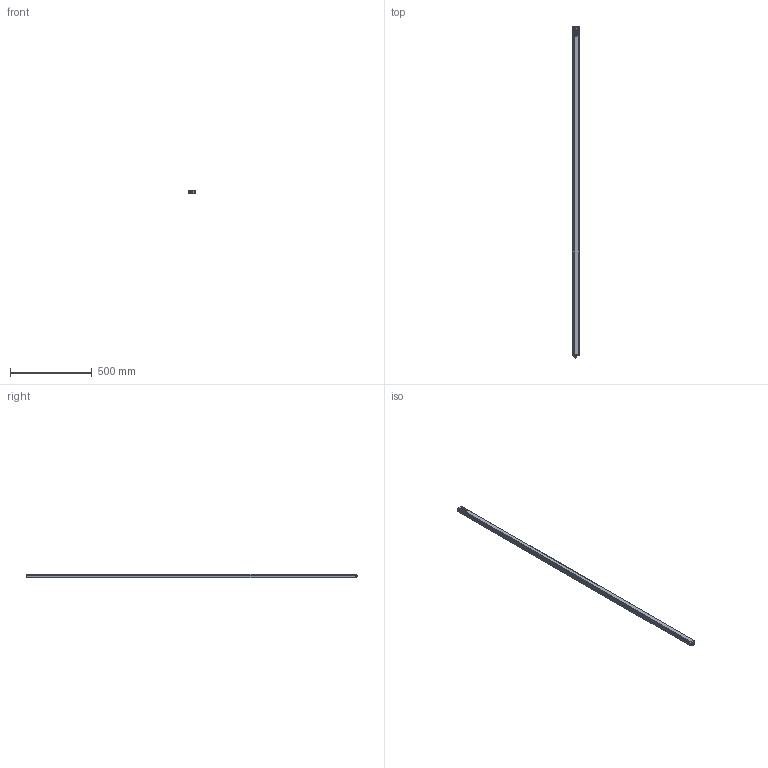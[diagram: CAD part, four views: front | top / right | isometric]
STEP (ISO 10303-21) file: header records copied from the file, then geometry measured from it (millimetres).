
FILE_DESCRIPTION(/* description */ (''),/* implementation_level */ '2;1');
FILE_NAME(/* name */ 'C:\Users\andre\SynologyDrive\Optoscan\Libreria Componenti\00 - Barriere\Barriera sorgente\Argo_2000_TX.stp',/* time_stamp */ '2021-04-22T10:29:16+02:00',/* author */ ('andre'),/* organization */ (''),/* preprocessor_version */ 'ST-DEVELOPER v18',/* originating_system */ 'Autodesk Inventor 2020',/* authorisation */ '');
FILE_SCHEMA (('AUTOMOTIVE_DESIGN { 1 0 10303 214 3 1 1 }'));
Length unit declared in the file: millimetre
Products named in the file (1): Argo_2000_TX
Bounding box: 40.5 x 2033.3 x 20.75 mm (x, y, z)
Volume: 400711.6 mm3; surface area: 527715.5 mm2
Topology: 1 solids, 1 shells, 696 faces, 1911 edges, 1225 vertices
Faces by surface type: plane 321, cylinder 195, bspline 94, torus 72, cone 8, sphere 6
Full cylindrical faces by diameter (mm): 1 x4, 2.459 x4, 2.5 x4, 3 x4, 3.5 x4, 5.5 x4, 8 x1, 10.5 x2, 11.75 x9, 15.7 x1, 17.5 x1
Entity records: 30770 total; most frequent: CARTESIAN_POINT 12670, ORIENTED_EDGE 3806, DIRECTION 3415, EDGE_CURVE 1903, VERTEX_POINT 1225, AXIS2_PLACEMENT_3D 1193, LINE 1029, VECTOR 1029
